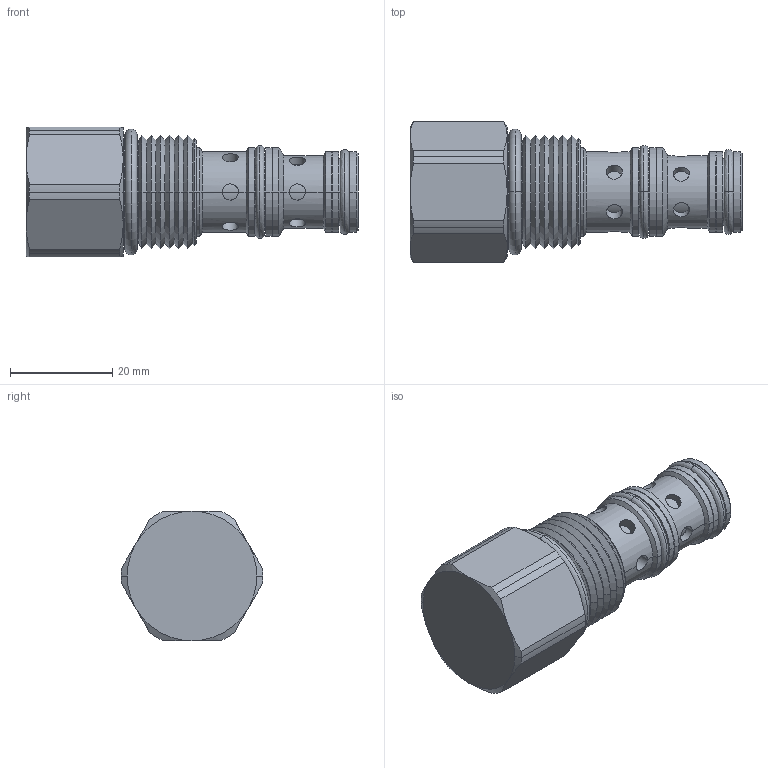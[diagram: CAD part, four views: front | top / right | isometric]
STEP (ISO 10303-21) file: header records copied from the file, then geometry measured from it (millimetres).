
FILE_DESCRIPTION((''),'2;1');
FILE_NAME('U:\Solid model CD\Solid model full\Mechanical\STEP\DFFCP00-3D Full.stp','2008-07-29T09:05:50',('Dan'),(''),'Autodesk Inventor 9','Autodesk Inventor 9','');
FILE_SCHEMA(('AUTOMOTIVE_DESIGN { 1 0 10303 214 1 1 1 1 }'));
Length unit declared in the file: inch
Products named in the file (7): DFFCP00-3D Full; DFFCP00-3D Full1; DFFCP00-3D Full2; DFFCP00-3D Full3; DFFCP00-3D Full4; DFFCP00-3D Full5; DFFCP00-3D Full6
Assembly tree (6 placements, depth 2):
  DFFCP00-3D Full
    DFFCP00-3D Full1
    DFFCP00-3D Full2
    DFFCP00-3D Full3
    DFFCP00-3D Full4
    DFFCP00-3D Full5
    DFFCP00-3D Full6
Bounding box: 65.05 x 27.76 x 25.4 mm (x, y, z)
Volume: 20667.7 mm3; surface area: 8010.1 mm2
Topology: 6 solids, 6 shells, 178 faces, 401 edges, 245 vertices
Faces by surface type: cylinder 76, cone 58, bspline 24, plane 16, torus 4
Entity records: 6420 total; most frequent: CARTESIAN_POINT 2401, DIRECTION 816, ORIENTED_EDGE 802, EDGE_CURVE 401, AXIS2_PLACEMENT_3D 344, VERTEX_POINT 245, EDGE_LOOP 198, FACE_OUTER_BOUND 178
